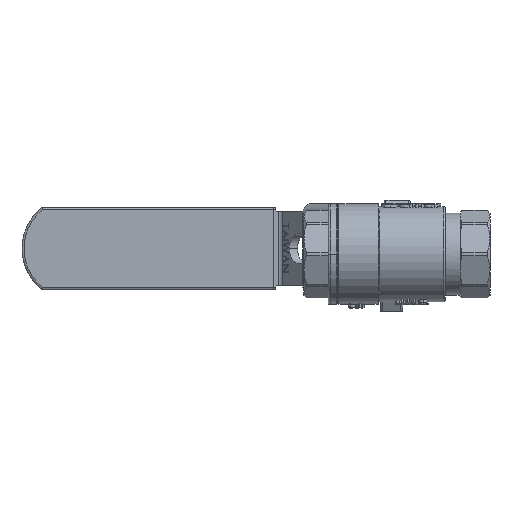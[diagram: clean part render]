
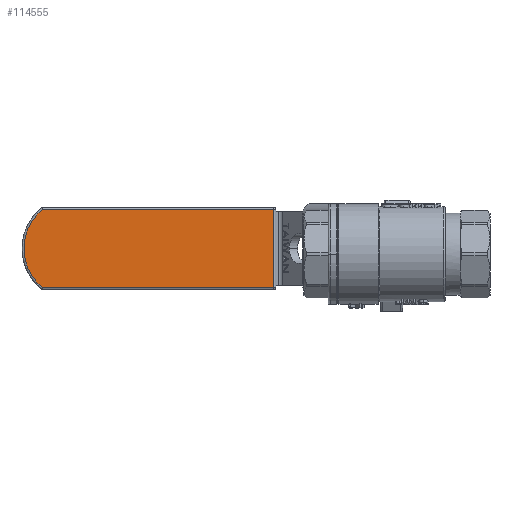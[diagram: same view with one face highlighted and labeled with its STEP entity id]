
A CAD part, front view. The second image highlights one B-rep face of the part: STEP entity #114555.
In plain terms, the highlighted planar face has unit normal (0, -1, 0).
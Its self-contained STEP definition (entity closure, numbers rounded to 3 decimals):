
#1120 = VERTEX_POINT ( 'NONE', #68911 ) ;
#1591 = DIRECTION ( 'NONE',  ( -1., 0., 0. ) ) ;
#2163 = VERTEX_POINT ( 'NONE', #56880 ) ;
#5721 = DIRECTION ( 'NONE',  ( 0., 0., -1. ) ) ;
#12935 = DIRECTION ( 'NONE',  ( 0., -1., 0. ) ) ;
#13193 = CARTESIAN_POINT ( 'NONE',  ( -67.073, -4., 10. ) ) ;
#13894 = EDGE_CURVE ( 'NONE', #1120, #49864, #20923, .T. ) ;
#20923 = LINE ( 'NONE', #32637, #31312 ) ;
#24282 = ORIENTED_EDGE ( 'NONE', *, *, #49278, .T. ) ;
#30782 = DIRECTION ( 'NONE',  ( -1., 0., 0. ) ) ;
#31312 = VECTOR ( 'NONE', #72955, 1000. ) ;
#32637 = CARTESIAN_POINT ( 'NONE',  ( -67.073, -4., -10.5 ) ) ;
#37235 = VERTEX_POINT ( 'NONE', #118666 ) ;
#37479 = VECTOR ( 'NONE', #1591, 1000. ) ;
#43102 = ORIENTED_EDGE ( 'NONE', *, *, #84745, .T. ) ;
#45405 = ORIENTED_EDGE ( 'NONE', *, *, #70895, .T. ) ;
#46869 = FACE_OUTER_BOUND ( 'NONE', #112188, .T. ) ;
#49278 = EDGE_CURVE ( 'NONE', #2163, #1120, #119454, .T. ) ;
#49864 = VERTEX_POINT ( 'NONE', #84130 ) ;
#56880 = CARTESIAN_POINT ( 'NONE',  ( -66.573, -4., 10.5 ) ) ;
#59967 = AXIS2_PLACEMENT_3D ( 'NONE', #13193, #79660, #70506 ) ;
#61349 = PLANE ( 'NONE',  #59967 ) ;
#68911 = CARTESIAN_POINT ( 'NONE',  ( -66.573, -4., -10.5 ) ) ;
#70506 = DIRECTION ( 'NONE',  ( -1., 0., 0. ) ) ;
#70895 = EDGE_CURVE ( 'NONE', #37235, #2163, #99991, .T. ) ;
#72955 = DIRECTION ( 'NONE',  ( 1., 0., 0. ) ) ;
#79660 = DIRECTION ( 'NONE',  ( 0., 1., 0. ) ) ;
#82293 = ORIENTED_EDGE ( 'NONE', *, *, #13894, .T. ) ;
#84130 = CARTESIAN_POINT ( 'NONE',  ( -4.515, -4., -10.5 ) ) ;
#84745 = EDGE_CURVE ( 'NONE', #49864, #37235, #115578, .T. ) ;
#91326 = VECTOR ( 'NONE', #5721, 1000. ) ;
#99991 = LINE ( 'NONE', #114161, #37479 ) ;
#100417 = CARTESIAN_POINT ( 'NONE',  ( -66.573, -4., 10. ) ) ;
#112188 = EDGE_LOOP ( 'NONE', ( #45405, #24282, #82293, #43102 ) ) ;
#114161 = CARTESIAN_POINT ( 'NONE',  ( -67.073, -4., 10.5 ) ) ;
#114555 = ADVANCED_FACE ( 'NONE', ( #46869 ), #61349, .F. ) ;
#115578 = CIRCLE ( 'NONE', #122270, 13.5 ) ;
#116389 = CARTESIAN_POINT ( 'NONE',  ( -13., -4., 0. ) ) ;
#118666 = CARTESIAN_POINT ( 'NONE',  ( -4.515, -4., 10.5 ) ) ;
#119454 = LINE ( 'NONE', #100417, #91326 ) ;
#122270 = AXIS2_PLACEMENT_3D ( 'NONE', #116389, #12935, #30782 ) ;
